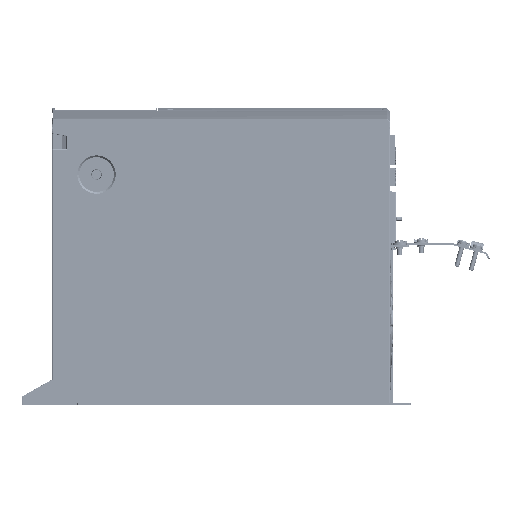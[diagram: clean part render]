
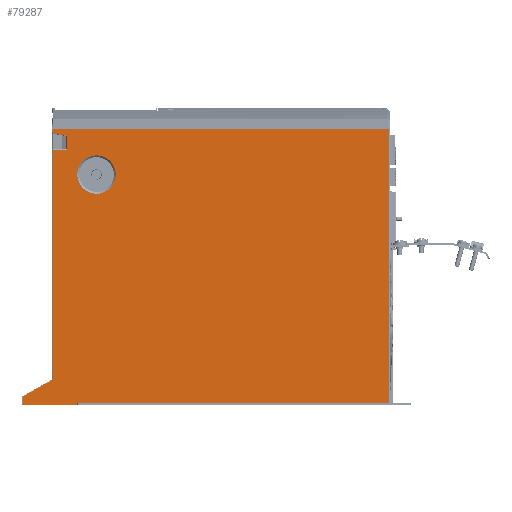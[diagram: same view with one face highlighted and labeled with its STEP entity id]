
A CAD part, left-side view. The second image highlights one B-rep face of the part: STEP entity #79287.
In plain terms, the highlighted planar face has unit normal (-1, 0, 0).
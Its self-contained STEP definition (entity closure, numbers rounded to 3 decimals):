
#565=DIRECTION('',(0.,-1.,0.));
#566=VECTOR('',#565,46.506);
#567=CARTESIAN_POINT('',(-112.5,25.55,-238.1));
#568=LINE('',#567,#566);
#4029=DIRECTION('',(0.,-1.,0.));
#4030=VECTOR('',#4029,268.559);
#4031=CARTESIAN_POINT('',(-112.5,-20.991,-236.6));
#4032=LINE('',#4031,#4030);
#22472=DIRECTION('',(0.,0.,-1.));
#22473=VECTOR('',#22472,3.34);
#22474=CARTESIAN_POINT('',(-112.5,-0.45,-1.688));
#22475=LINE('',#22474,#22473);
#22480=DIRECTION('',(0.,-0.996,0.087));
#22481=VECTOR('',#22480,0.909);
#22482=CARTESIAN_POINT('',(-112.5,0.455,-217.192));
#22483=LINE('',#22482,#22481);
#22484=DIRECTION('',(0.,0.985,0.174));
#22485=VECTOR('',#22484,12.321);
#22486=CARTESIAN_POINT('',(-112.5,-12.584,-7.168));
#22487=LINE('',#22486,#22485);
#22488=DIRECTION('',(0.,-1.,0.));
#22489=VECTOR('',#22488,289.1);
#22490=CARTESIAN_POINT('',(-112.5,-0.45,-1.688));
#22491=LINE('',#22490,#22489);
#22492=CARTESIAN_POINT('',(-112.5,-20.991,-236.6));
#22493=CARTESIAN_POINT('',(-112.5,-20.974,-237.1));
#22494=CARTESIAN_POINT('',(-112.5,-20.974,-237.6));
#22495=CARTESIAN_POINT('',(-112.5,-20.956,-238.1));
#22497=DIRECTION('',(0.,-0.871,0.492));
#22498=VECTOR('',#22497,28.82);
#22499=CARTESIAN_POINT('',(-112.5,25.55,-231.363));
#22500=LINE('',#22499,#22498);
#22501=CARTESIAN_POINT('',(-112.5,-38.,-40.5));
#22502=DIRECTION('',(-1.,0.,0.));
#22503=DIRECTION('',(0.,1.,0.));
#22504=AXIS2_PLACEMENT_3D('',#22501,#22502,#22503);
#22506=CARTESIAN_POINT('',(-112.5,-38.,-40.5));
#22507=DIRECTION('',(-1.,0.,0.));
#22508=DIRECTION('',(0.,0.,-1.));
#22509=AXIS2_PLACEMENT_3D('',#22506,#22507,#22508);
#22511=CARTESIAN_POINT('',(-112.5,-38.,-40.5));
#22512=DIRECTION('',(-1.,0.,0.));
#22513=DIRECTION('',(0.,-1.,0.));
#22514=AXIS2_PLACEMENT_3D('',#22511,#22512,#22513);
#22516=CARTESIAN_POINT('',(-112.5,-38.,-40.5));
#22517=DIRECTION('',(-1.,0.,0.));
#22518=DIRECTION('',(0.,0.,1.));
#22519=AXIS2_PLACEMENT_3D('',#22516,#22517,#22518);
#32092=DIRECTION('',(0.,0.,-1.));
#32093=VECTOR('',#32092,6.737);
#32094=CARTESIAN_POINT('',(-112.5,25.55,-231.363));
#32095=LINE('',#32094,#32093);
#32096=DIRECTION('',(0.,0.,-1.));
#32097=VECTOR('',#32096,197.928);
#32098=CARTESIAN_POINT('',(-112.5,-0.45,-19.184));
#32099=LINE('',#32098,#32097);
#32189=DIRECTION('',(0.,0.,-1.));
#32190=VECTOR('',#32189,12.017);
#32191=CARTESIAN_POINT('',(-112.5,-12.584,-7.168));
#32192=LINE('',#32191,#32190);
#32221=DIRECTION('',(0.,1.,0.));
#32222=VECTOR('',#32221,12.134);
#32223=CARTESIAN_POINT('',(-112.5,-12.584,-19.184));
#32224=LINE('',#32223,#32222);
#32265=DIRECTION('',(0.,0.,1.));
#32266=VECTOR('',#32265,234.912);
#32267=CARTESIAN_POINT('',(-112.5,-289.55,-236.6));
#32268=LINE('',#32267,#32266);
#42596=CARTESIAN_POINT('',(-112.5,-20.991,-236.6));
#42597=VERTEX_POINT('',#42596);
#42598=CARTESIAN_POINT('',(-112.5,-289.55,-236.6));
#42599=VERTEX_POINT('',#42598);
#42820=CARTESIAN_POINT('',(-112.5,0.455,-217.192));
#42821=CARTESIAN_POINT('',(-112.5,-0.45,-217.112));
#42822=VERTEX_POINT('',#42820);
#42823=VERTEX_POINT('',#42821);
#42824=CARTESIAN_POINT('',(-112.5,-0.45,-19.184));
#42825=VERTEX_POINT('',#42824);
#42826=CARTESIAN_POINT('',(-112.5,-12.584,-19.184));
#42827=VERTEX_POINT('',#42826);
#42828=CARTESIAN_POINT('',(-112.5,-12.584,-7.168));
#42829=VERTEX_POINT('',#42828);
#42830=CARTESIAN_POINT('',(-112.5,-0.45,-5.028));
#42831=VERTEX_POINT('',#42830);
#42832=CARTESIAN_POINT('',(-112.5,-0.45,-1.688));
#42833=VERTEX_POINT('',#42832);
#42834=CARTESIAN_POINT('',(-112.5,-289.55,-1.688));
#42835=VERTEX_POINT('',#42834);
#42836=VERTEX_POINT('',#22495);
#42837=CARTESIAN_POINT('',(-112.5,25.55,-238.1));
#42838=VERTEX_POINT('',#42837);
#42839=CARTESIAN_POINT('',(-112.5,25.55,-231.363));
#42840=VERTEX_POINT('',#42839);
#42841=CARTESIAN_POINT('',(-112.5,-38.,-57.));
#42842=CARTESIAN_POINT('',(-112.5,-54.5,-40.5));
#42843=VERTEX_POINT('',#42841);
#42844=VERTEX_POINT('',#42842);
#42845=CARTESIAN_POINT('',(-112.5,-21.5,-40.5));
#42846=VERTEX_POINT('',#42845);
#42847=CARTESIAN_POINT('',(-112.5,-38.,-24.));
#42848=VERTEX_POINT('',#42847);
#79248=CARTESIAN_POINT('',(-112.5,0.,-238.1));
#79249=DIRECTION('',(-1.,0.,0.));
#79250=DIRECTION('',(0.,0.,1.));
#79251=AXIS2_PLACEMENT_3D('',#79248,#79249,#79250);
#79252=PLANE('',#79251);
#79254=ORIENTED_EDGE('',*,*,#79253,.T.);
#79256=ORIENTED_EDGE('',*,*,#79255,.F.);
#79258=ORIENTED_EDGE('',*,*,#79257,.F.);
#79260=ORIENTED_EDGE('',*,*,#79259,.F.);
#79262=ORIENTED_EDGE('',*,*,#79261,.T.);
#79263=ORIENTED_EDGE('',*,*,#79240,.F.);
#79264=ORIENTED_EDGE('',*,*,#79229,.T.);
#79266=ORIENTED_EDGE('',*,*,#79265,.F.);
#79267=ORIENTED_EDGE('',*,*,#53419,.F.);
#79269=ORIENTED_EDGE('',*,*,#79268,.T.);
#79270=ORIENTED_EDGE('',*,*,#51025,.F.);
#79272=ORIENTED_EDGE('',*,*,#79271,.F.);
#79274=ORIENTED_EDGE('',*,*,#79273,.T.);
#79275=EDGE_LOOP('',(#79254,#79256,#79258,#79260,#79262,#79263,#79264,#79266,
#79267,#79269,#79270,#79272,#79274));
#79276=FACE_OUTER_BOUND('',#79275,.F.);
#79278=ORIENTED_EDGE('',*,*,#79277,.T.);
#79280=ORIENTED_EDGE('',*,*,#79279,.T.);
#79282=ORIENTED_EDGE('',*,*,#79281,.T.);
#79284=ORIENTED_EDGE('',*,*,#79283,.T.);
#79285=EDGE_LOOP('',(#79278,#79280,#79282,#79284));
#79286=FACE_BOUND('',#79285,.F.);
#22496=B_SPLINE_CURVE_WITH_KNOTS('',3,(#22492,#22493,#22494,#22495),
.UNSPECIFIED.,.F.,.F.,(4,4),(0.,1.),.UNSPECIFIED.);
#22505=CIRCLE('',#22504,16.5);
#22510=CIRCLE('',#22509,16.5);
#22515=CIRCLE('',#22514,16.5);
#22520=CIRCLE('',#22519,16.5);
#51025=EDGE_CURVE('',#42838,#42836,#568,.T.);
#53419=EDGE_CURVE('',#42597,#42599,#4032,.T.);
#79229=EDGE_CURVE('',#42833,#42835,#22491,.T.);
#79240=EDGE_CURVE('',#42833,#42831,#22475,.T.);
#79253=EDGE_CURVE('',#42822,#42823,#22483,.T.);
#79255=EDGE_CURVE('',#42825,#42823,#32099,.T.);
#79257=EDGE_CURVE('',#42827,#42825,#32224,.T.);
#79259=EDGE_CURVE('',#42829,#42827,#32192,.T.);
#79261=EDGE_CURVE('',#42829,#42831,#22487,.T.);
#79265=EDGE_CURVE('',#42599,#42835,#32268,.T.);
#79268=EDGE_CURVE('',#42597,#42836,#22496,.T.);
#79271=EDGE_CURVE('',#42840,#42838,#32095,.T.);
#79273=EDGE_CURVE('',#42840,#42822,#22500,.T.);
#79277=EDGE_CURVE('',#42846,#42843,#22505,.T.);
#79279=EDGE_CURVE('',#42843,#42844,#22510,.T.);
#79281=EDGE_CURVE('',#42844,#42848,#22515,.T.);
#79283=EDGE_CURVE('',#42848,#42846,#22520,.T.);
#79287=ADVANCED_FACE('',(#79276,#79286),#79252,.T.);
